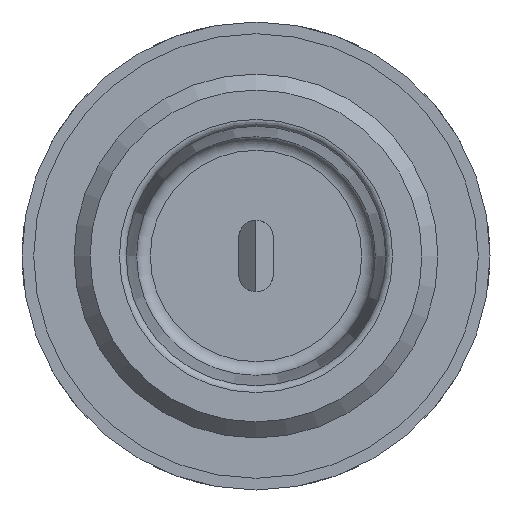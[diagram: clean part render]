
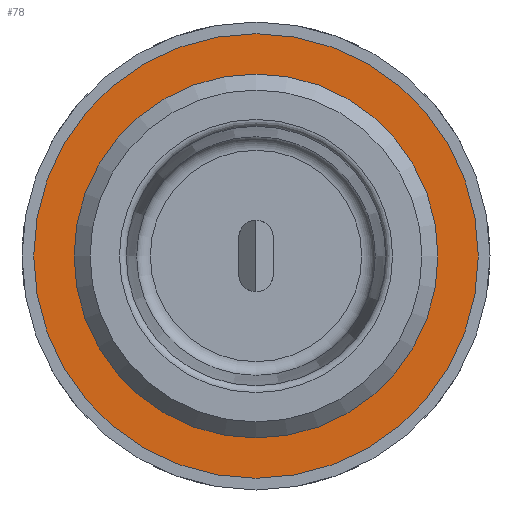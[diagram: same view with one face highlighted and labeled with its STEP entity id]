
A CAD part, left-side view. The second image highlights one B-rep face of the part: STEP entity #78.
In plain terms, the highlighted planar face has unit normal (-1, 0, 0).
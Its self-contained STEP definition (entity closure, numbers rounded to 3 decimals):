
#78 = ADVANCED_FACE( '', ( #146, #147 ), #148, .T. );
#146 = FACE_BOUND( '', #285, .T. );
#147 = FACE_OUTER_BOUND( '', #286, .T. );
#148 = PLANE( '', #287 );
#285 = EDGE_LOOP( '', ( #433 ) );
#286 = EDGE_LOOP( '', ( #434 ) );
#287 = AXIS2_PLACEMENT_3D( '', #435, #436, #437 );
#433 = ORIENTED_EDGE( '', *, *, #906, .T. );
#434 = ORIENTED_EDGE( '', *, *, #907, .F. );
#435 = CARTESIAN_POINT( '', ( 10.8, 16.15, 0. ) );
#436 = DIRECTION( '', ( -1., 0., 0. ) );
#437 = DIRECTION( '', ( 0., -1., 0. ) );
#906 = EDGE_CURVE( '', #1061, #1061, #1062, .T. );
#907 = EDGE_CURVE( '', #1063, #1063, #1064, .T. );
#1061 = VERTEX_POINT( '', #1320 );
#1062 = CIRCLE( '', #1321, 13.221 );
#1063 = VERTEX_POINT( '', #1322 );
#1064 = CIRCLE( '', #1323, 16.15 );
#1320 = CARTESIAN_POINT( '', ( 10.8, 13.221, 0. ) );
#1321 = AXIS2_PLACEMENT_3D( '', #1693, #1694, #1695 );
#1322 = CARTESIAN_POINT( '', ( 10.8, 16.15, 0. ) );
#1323 = AXIS2_PLACEMENT_3D( '', #1696, #1697, #1698 );
#1693 = CARTESIAN_POINT( '', ( 10.8, 0., 0. ) );
#1694 = DIRECTION( '', ( 1., 0., 0. ) );
#1695 = DIRECTION( '', ( 0., 1., 0. ) );
#1696 = CARTESIAN_POINT( '', ( 10.8, 0., 0. ) );
#1697 = DIRECTION( '', ( 1., 0., 0. ) );
#1698 = DIRECTION( '', ( 0., 1., 0. ) );
